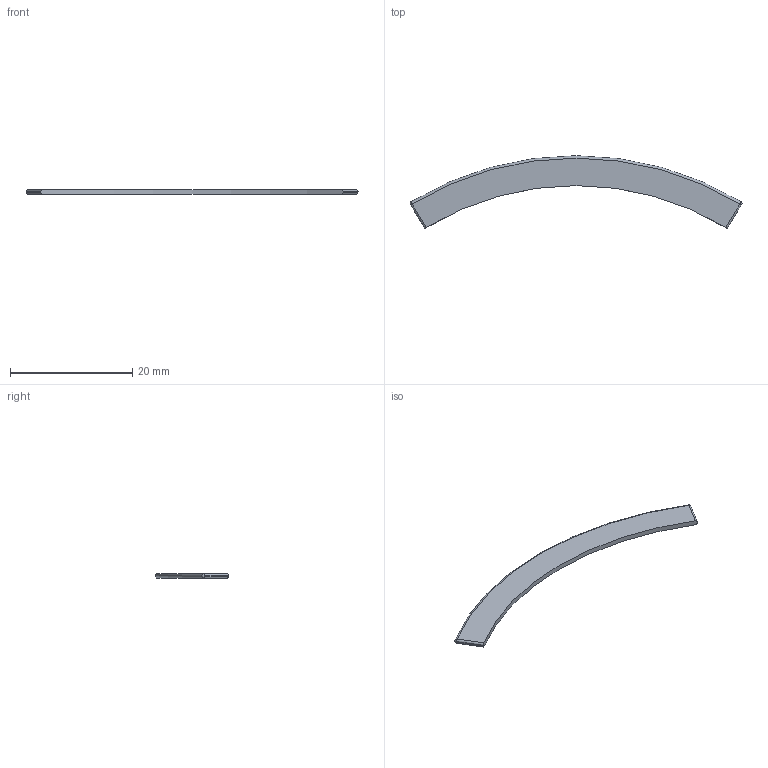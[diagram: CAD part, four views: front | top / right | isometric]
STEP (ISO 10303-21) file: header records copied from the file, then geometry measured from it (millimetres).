
FILE_DESCRIPTION(('STEP AP203'), '1');
FILE_NAME('ﾋⅰ瑰', '', ('UNSPECIFIED'), ('UNSPECIFIED'), 'C3D Converter', 'C3D Toolkit', '');
FILE_SCHEMA(('CONFIG_CONTROL_DESIGN'));
Length unit declared in the file: millimetre
Products named in the file (1): Лопасть
Bounding box: 54.4 x 11.89 x 0.8 mm (x, y, z)
Volume: 210.5 mm3; surface area: 609.9 mm2
Topology: 1 solids, 1 shells, 12 faces, 26 edges, 16 vertices
Faces by surface type: cylinder 5, plane 4, bspline 2, torus 1
Entity records: 914 total; most frequent: CARTESIAN_POINT 529, ORIENTED_EDGE 52, DIRECTION 48, EDGE_CURVE 26, AXIS2_PLACEMENT_3D 19, VERTEX_POINT 16, COLOUR_RGB 13, FILL_AREA_STYLE_COLOUR 13
